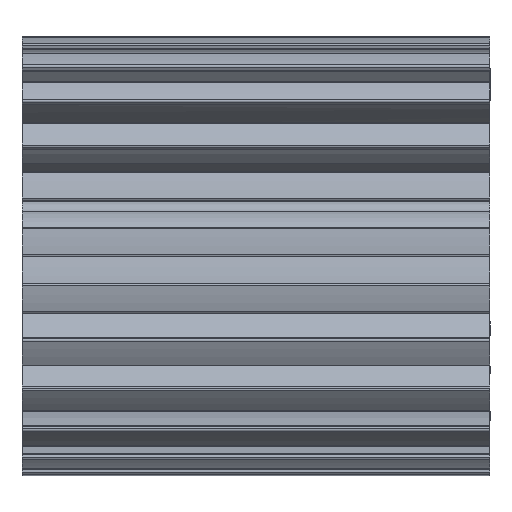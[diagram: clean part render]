
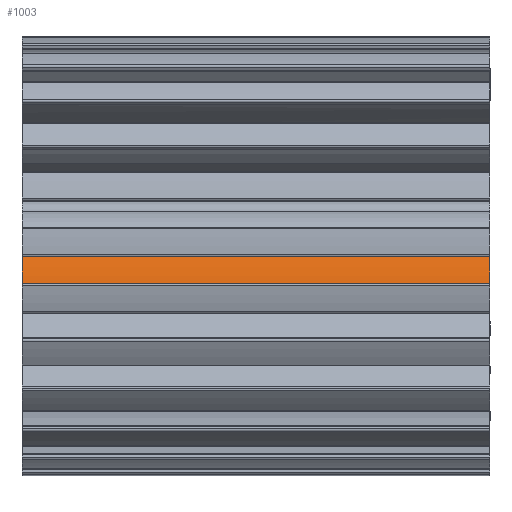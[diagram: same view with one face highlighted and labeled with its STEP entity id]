
A CAD part, left-side view. The second image highlights one B-rep face of the part: STEP entity #1003.
In plain terms, the highlighted cylindrical face has radius 45.52 mm (diameter 91.04 mm), a partial arc.
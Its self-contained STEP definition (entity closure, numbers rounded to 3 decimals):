
#33 = VERTEX_POINT ( 'NONE', #10000 ) ;
#63 = DIRECTION ( 'NONE',  ( 0., 0., 1. ) ) ;
#208 = AXIS2_PLACEMENT_3D ( 'NONE', #11689, #5601, #12723 ) ;
#302 = CARTESIAN_POINT ( 'NONE',  ( -16.713, 17.499, -0.035 ) ) ;
#352 = DIRECTION ( 'NONE',  ( 0., -1., 0. ) ) ;
#356 = CIRCLE ( 'NONE', #7875, 45.52 ) ;
#960 = DIRECTION ( 'NONE',  ( 0., 0., 1. ) ) ;
#1003 = ADVANCED_FACE ( 'NONE', ( #12600 ), #7174, .F. ) ;
#1876 = CIRCLE ( 'NONE', #208, 45.52 ) ;
#2090 = LINE ( 'NONE', #302, #12541 ) ;
#3813 = ORIENTED_EDGE ( 'NONE', *, *, #3845, .F. ) ;
#3845 = EDGE_CURVE ( 'NONE', #33, #8875, #356, .T. ) ;
#4120 = DIRECTION ( 'NONE',  ( 0., 1., 0. ) ) ;
#5192 = DIRECTION ( 'NONE',  ( 0., 1., 0. ) ) ;
#5601 = DIRECTION ( 'NONE',  ( 0., -1., 0. ) ) ;
#5766 = EDGE_CURVE ( 'NONE', #8875, #6793, #12980, .T. ) ;
#6091 = CARTESIAN_POINT ( 'NONE',  ( -43.903, -15.666, 36.472 ) ) ;
#6528 = CARTESIAN_POINT ( 'NONE',  ( -21.472, 35.12, -3.137 ) ) ;
#6793 = VERTEX_POINT ( 'NONE', #6528 ) ;
#6841 = EDGE_CURVE ( 'NONE', #6793, #11024, #1876, .T. ) ;
#6986 = DIRECTION ( 'NONE',  ( 0., 1., 0. ) ) ;
#6990 = CARTESIAN_POINT ( 'NONE',  ( -16.713, 35.12, -0.035 ) ) ;
#7174 = CYLINDRICAL_SURFACE ( 'NONE', #13116, 45.52 ) ;
#7599 = EDGE_LOOP ( 'NONE', ( #9047, #13075, #9308, #3813 ) ) ;
#7875 = AXIS2_PLACEMENT_3D ( 'NONE', #13078, #6986, #960 ) ;
#7962 = CARTESIAN_POINT ( 'NONE',  ( -21.472, -14.88, -3.137 ) ) ;
#8875 = VERTEX_POINT ( 'NONE', #7962 ) ;
#9047 = ORIENTED_EDGE ( 'NONE', *, *, #13004, .F. ) ;
#9308 = ORIENTED_EDGE ( 'NONE', *, *, #5766, .F. ) ;
#10000 = CARTESIAN_POINT ( 'NONE',  ( -16.713, -14.88, -0.035 ) ) ;
#10239 = CARTESIAN_POINT ( 'NONE',  ( -21.472, -15.666, -3.137 ) ) ;
#11024 = VERTEX_POINT ( 'NONE', #6990 ) ;
#11689 = CARTESIAN_POINT ( 'NONE',  ( -43.903, 35.12, 36.472 ) ) ;
#12541 = VECTOR ( 'NONE', #352, 1000. ) ;
#12600 = FACE_OUTER_BOUND ( 'NONE', #7599, .T. ) ;
#12676 = VECTOR ( 'NONE', #5192, 1000. ) ;
#12723 = DIRECTION ( 'NONE',  ( 0., 0., 1. ) ) ;
#12980 = LINE ( 'NONE', #10239, #12676 ) ;
#13004 = EDGE_CURVE ( 'NONE', #11024, #33, #2090, .T. ) ;
#13075 = ORIENTED_EDGE ( 'NONE', *, *, #6841, .F. ) ;
#13078 = CARTESIAN_POINT ( 'NONE',  ( -43.903, -14.88, 36.472 ) ) ;
#13116 = AXIS2_PLACEMENT_3D ( 'NONE', #6091, #4120, #63 ) ;
